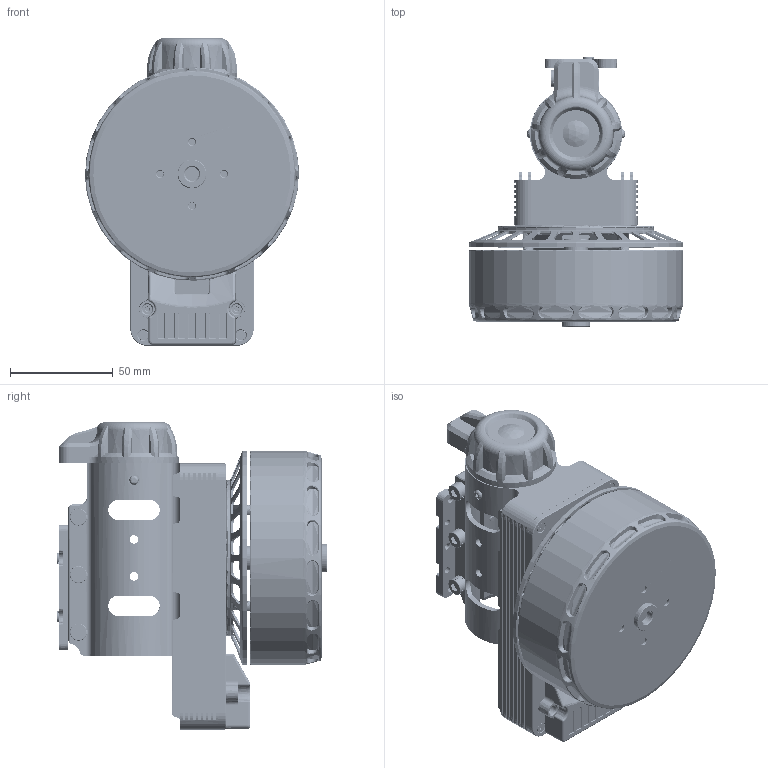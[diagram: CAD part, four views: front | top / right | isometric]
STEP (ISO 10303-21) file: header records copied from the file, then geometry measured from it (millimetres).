
FILE_DESCRIPTION((''),'2;1');
FILE_NAME('X9-PLUS-9620-D40-M5_20200812_','2020-08-13T',('owner'),(''),'PRO/ENGINEER BY PARAMETRIC TECHNOLOGY CORPORATION, 2014320','PRO/ENGINEER BY PARAMETRIC TECHNOLOGY CORPORATION, 2014320','');
FILE_SCHEMA(('CONFIG_CONTROL_DESIGN','SHAPE_APPEARANCE_LAYERS_GROUPS'));
Length unit declared in the file: millimetre
Products named in the file (1): X9-PLUS-9620-D40-M5_20200812_
Bounding box: 104 x 131.5 x 149.6 mm (x, y, z)
Volume: 529237 mm3; surface area: 131684.7 mm2
Topology: 1 solids, 25 shells, 6566 faces, 20382 edges, 13606 vertices
Faces by surface type: plane 3928, cylinder 1754, bspline 404, cone 349, torus 112, revolution 8, sphere 7, extrusion 4
Entity records: 312609 total; most frequent: CARTESIAN_POINT 130896, ORIENTED_EDGE 40734, DIRECTION 34334, EDGE_CURVE 20367, VERTEX_POINT 13606, VECTOR 12164, LINE 12160, AXIS2_PLACEMENT_3D 11081
